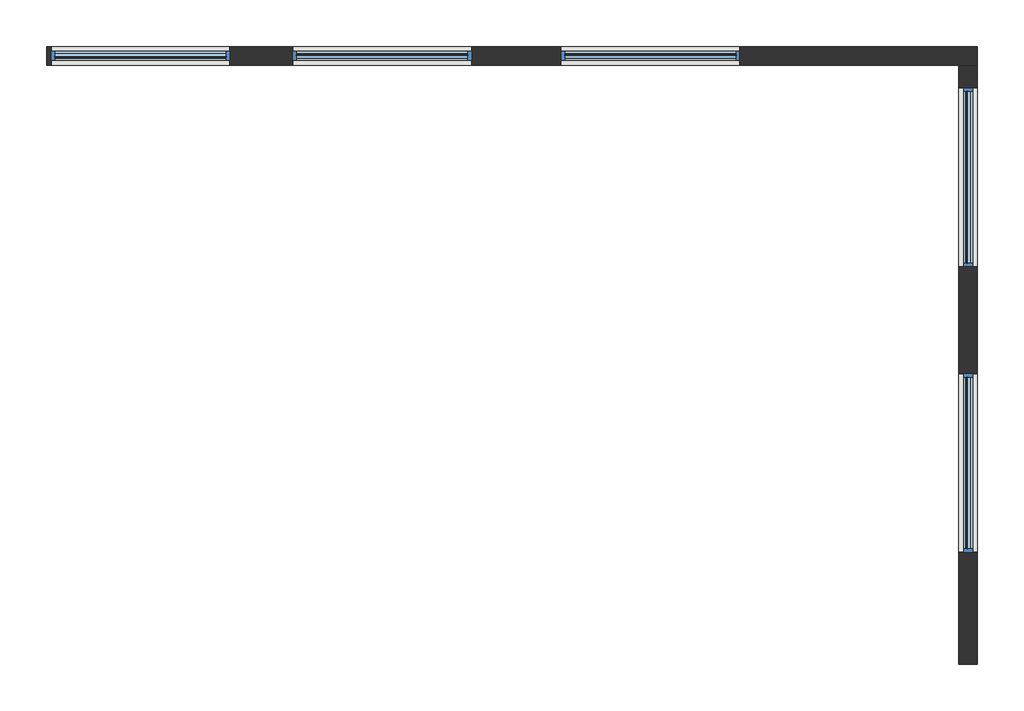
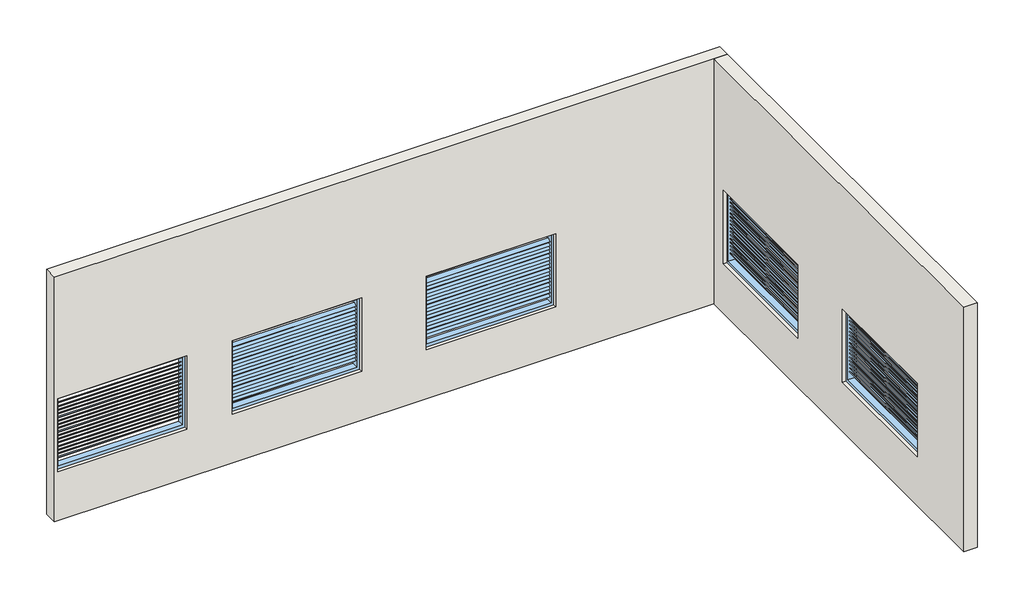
# One storey: 5 windows, 2 walls.
"""IFC4 building model written with IfcOpenShell, lengths in millimetres."""

from ifc_helpers import new_model, si_unit, frame, origin, place, context, project, spatial, polyline, outline, extrude, faceted_brep, transform, mapped, element, save
from components import window_b397132c

model = new_model("IFC4")

# Units and contexts
model_context = context("Model", 3, world=origin())
ifc_project = project(units=[si_unit("LENGTHUNIT", "METRE", prefix="MILLI")], contexts=[model_context])

# Site, building, storey
site = spatial("IfcSite", under=ifc_project)
building = spatial("IfcBuilding", under=site)
storey = spatial("IfcBuildingStorey", under=building, Name="标高 1", Elevation=0.0)

# Walls
placement = place(None, origin())
element("IfcWall", 1, ObjectType="常规 - 200mm 2", at=placement, inside=storey, context=model_context, shape_type="Brep", body=[
    faceted_brep([(-8310.5112818, 3627.0787262, 0.0), (1884.4887182, 3627.0787262, 0.0), (2094.4887182, 3627.0787262, 0.0), (2094.4887182, 3627.0787262, 4000.0), (1884.4887182, 3627.0787262, 4000.0), (-8310.5112818, 3627.0787262, 4000.0), (-8260.5112818, 3627.0787262, 2000.0), (-6260.5112818, 3627.0787262, 2000.0), (-6260.5112818, 3627.0787262, 800.0), (-8260.5112818, 3627.0787262, 800.0), (-3560.5112818, 3627.0787262, 2000.0), (-3560.5112818, 3627.0787262, 800.0), (-5560.5112818, 3627.0787262, 800.0), (-5560.5112818, 3627.0787262, 2000.0), (-560.5112818, 3627.0787262, 2000.0), (-560.5112818, 3627.0787262, 800.0), (-2560.5112818, 3627.0787262, 800.0), (-2560.5112818, 3627.0787262, 2000.0), (-8310.5112818, 3837.0787262, 0.0), (-8310.5112818, 3837.0787262, 4000.0), (2094.4887182, 3837.0787262, 4000.0), (2094.4887182, 3837.0787262, 0.0), (-8260.5112818, 3837.0787262, 2000.0), (-8260.5112818, 3837.0787262, 800.0), (-6260.5112818, 3837.0787262, 800.0), (-6260.5112818, 3837.0787262, 2000.0), (-3560.5112818, 3837.0787262, 2000.0), (-5560.5112818, 3837.0787262, 2000.0), (-5560.5112818, 3837.0787262, 800.0), (-3560.5112818, 3837.0787262, 800.0), (-560.5112818, 3837.0787262, 2000.0), (-2560.5112818, 3837.0787262, 2000.0), (-2560.5112818, 3837.0787262, 800.0), (-560.5112818, 3837.0787262, 800.0)], [[[0, 1, 2, 3, 4, 5], [6, 7, 8, 9], [10, 11, 12, 13], [14, 15, 16, 17]], [[18, 19, 20, 21], [22, 23, 24, 25], [26, 27, 28, 29], [30, 31, 32, 33]], [[2, 1, 0, 18, 21]], [[5, 4, 3, 20, 19]], [[0, 5, 19, 18]], [[3, 2, 21, 20]], [[23, 22, 6, 9]], [[24, 23, 9, 8]], [[25, 24, 8, 7]], [[22, 25, 7, 6]], [[11, 10, 26, 29]], [[12, 11, 29, 28]], [[13, 12, 28, 27]], [[10, 13, 27, 26]], [[15, 14, 30, 33]], [[16, 15, 33, 32]], [[17, 16, 32, 31]], [[14, 17, 31, 30]]]),
])
element("IfcWall", 2, ObjectType="常规 - 200mm 2", at=placement, inside=storey, context=model_context, shape_type="SweptSolid", body=[
    extrude(outline(polyline([(3627.0787262, 0.0), (-3067.9212738, 0.0), (-3067.9212738, 4000.0), (3627.0787262, 4000.0), (3627.0787262, 0.0)]), holes=[polyline([(3377.0787262, 2000.0), (1377.0787262, 2000.0), (1377.0787262, 800.0), (3377.0787262, 800.0), (3377.0787262, 2000.0)]), polyline([(182.0787262, 2000.0), (-1817.9212738, 2000.0), (-1817.9212738, 800.0), (182.0787262, 800.0), (182.0787262, 2000.0)])]), frame((1884.4887182, 0.0, 0.0), z_axis=(1.0, 0.0, 0.0), x_axis=(0.0, 1.0, 0.0)), (0.0, 0.0, 1.0), 210.0),
])

# Windows
window_shape = window_b397132c(model_context)
element("IfcWindow", 3, ObjectType="百叶窗 : 类型 1", at=placement, inside=storey, context=model_context, shape_type="MappedRepresentation", body=[
    mapped(window_shape, transform((-7135.5112818, 3732.0787262, 0.0), x_axis=(-1.0, 0.0, 0.0), y_axis=(0.0, -1.0, 0.0), z_axis=(0.0, 0.0, 1.0))),
])
element("IfcWindow", 4, ObjectType="百叶窗 : 类型 1", at=placement, inside=storey, context=model_context, shape_type="MappedRepresentation", body=[
    mapped(window_shape, transform((-4685.5112818, 3732.0787262, 0.0), x_axis=(1.0, 0.0, 0.0), y_axis=(0.0, 1.0, 0.0), z_axis=(0.0, 0.0, 1.0))),
])
element("IfcWindow", 5, ObjectType="百叶窗 : 类型 1", at=placement, inside=storey, context=model_context, shape_type="MappedRepresentation", body=[
    mapped(window_shape, transform((-1685.5112818, 3732.0787262, 0.0), x_axis=(1.0, 0.0, 0.0), y_axis=(0.0, 1.0, 0.0), z_axis=(0.0, 0.0, 1.0))),
])
element("IfcWindow", 6, ObjectType="百叶窗 : 类型 1", at=placement, inside=storey, context=model_context, shape_type="MappedRepresentation", body=[
    mapped(window_shape, transform((1989.4887182, 2252.0787262, 0.0), x_axis=(0.0, 1.0, 0.0), y_axis=(-1.0, 0.0, 0.0), z_axis=(0.0, 0.0, 1.0))),
])
element("IfcWindow", 7, ObjectType="百叶窗 : 类型 1", at=placement, inside=storey, context=model_context, shape_type="MappedRepresentation", body=[
    mapped(window_shape, transform((1989.4887182, -942.9212738, 0.0), x_axis=(0.0, 1.0, 0.0), y_axis=(-1.0, 0.0, 0.0), z_axis=(0.0, 0.0, 1.0))),
])

save(model, "model.ifc")
